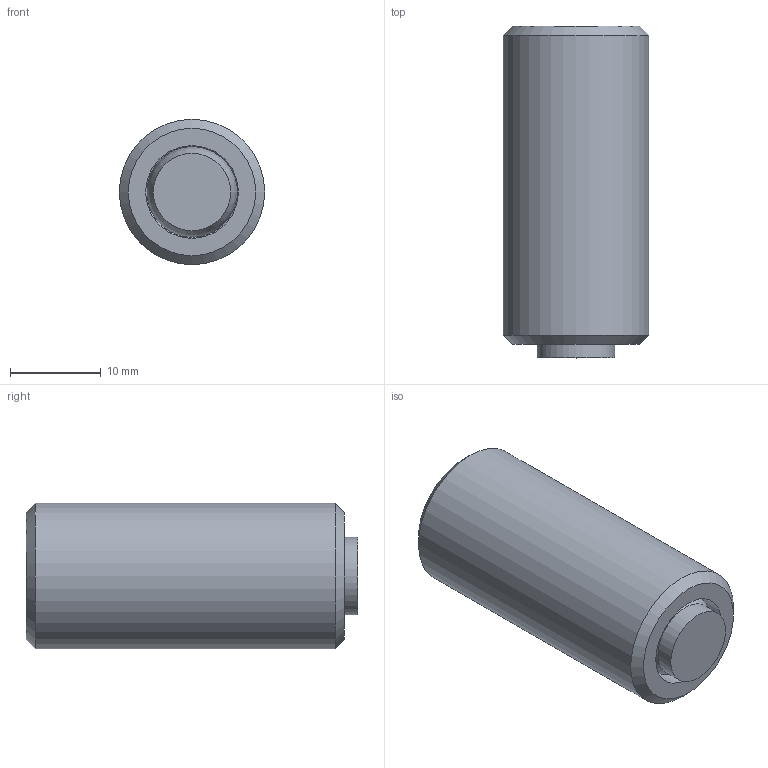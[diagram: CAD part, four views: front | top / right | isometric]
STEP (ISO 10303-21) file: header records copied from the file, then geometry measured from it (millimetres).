
FILE_DESCRIPTION( ( 'STEP AP203' ), '1' );
FILE_NAME( 'C:/Temp/Ganter_Step_05_03_2020/data/3_2/gn_709_8/gn_709_8b/Clamping pad GN 709.8-M16-35-B (0).stp', '2020-03-13T05:38:00', ( 'License CC BY-ND 4.0' ), ( 'CADENAS' ), ' ', 'PARTsolutions', ' ' );
FILE_SCHEMA( ( 'CONFIG_CONTROL_DESIGN' ) );
Length unit declared in the file: millimetre
Products named in the file (3): Clamping pad GN 709.8-M16-35-B (0); _Pendelelement GN 709.8-M16-35-B-1; _Pendelelement GN 709.8-M16-35-B-2
Assembly tree (2 placements, depth 2):
  Clamping pad GN 709.8-M16-35-B (0)
    _Pendelelement GN 709.8-M16-35-B-1
    _Pendelelement GN 709.8-M16-35-B-2
Bounding box: 16 x 36.5 x 16 mm (x, y, z)
Volume: 6573.9 mm3; surface area: 2848.6 mm2
Topology: 2 solids, 2 shells, 18 faces, 36 edges, 23 vertices
Faces by surface type: plane 11, cone 3, cylinder 3, sphere 1
Full cylindrical faces by diameter (mm): 8.5 x1, 10.18 x1, 16 x1
Entity records: 524 total; most frequent: DIRECTION 78, CARTESIAN_POINT 70, ORIENTED_EDGE 54, AXIS2_PLACEMENT_3D 30, EDGE_CURVE 27, EDGE_LOOP 26, VERTEX_POINT 22, FACE_OUTER_BOUND 21
